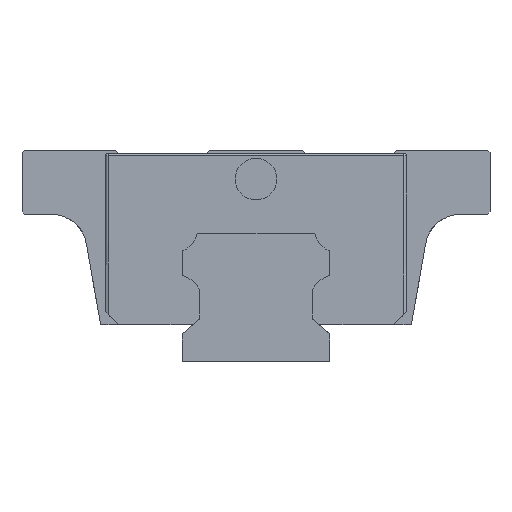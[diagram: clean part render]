
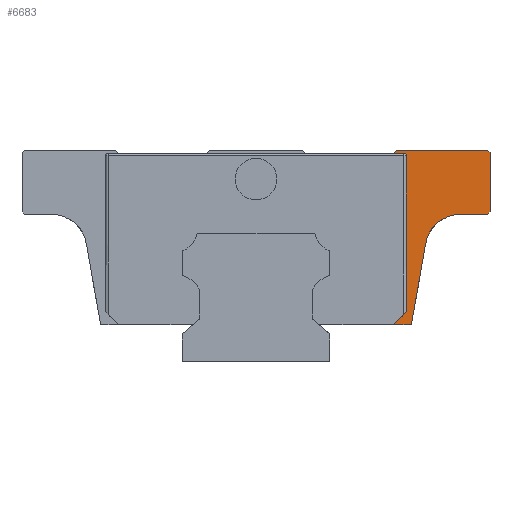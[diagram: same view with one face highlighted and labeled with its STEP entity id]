
A CAD part, left-side view. The second image highlights one B-rep face of the part: STEP entity #6683.
In plain terms, the highlighted planar face has unit normal (-1, 0, 0).
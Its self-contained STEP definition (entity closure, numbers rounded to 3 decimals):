
#136 = CARTESIAN_POINT ( 'NONE',  ( -29.5, -36.672, 32.463 ) ) ;
#156 = CARTESIAN_POINT ( 'NONE',  ( -29.5, -21.9, 33. ) ) ;
#224 = CARTESIAN_POINT ( 'NONE',  ( -29.5, -21.9, 33. ) ) ;
#227 = VECTOR ( 'NONE', #2421, 1000. ) ;
#237 = CARTESIAN_POINT ( 'NONE',  ( -29.5, -36.135, 23. ) ) ;
#273 = LINE ( 'NONE', #6273, #2633 ) ;
#302 = VECTOR ( 'NONE', #6993, 1000. ) ;
#496 = CARTESIAN_POINT ( 'NONE',  ( -29.5, -36.5, 32.635 ) ) ;
#572 = CARTESIAN_POINT ( 'NONE',  ( -29.5, -23.449, 32.135 ) ) ;
#712 = DIRECTION ( 'NONE',  ( 0., -0.707, 0.707 ) ) ;
#769 = LINE ( 'NONE', #224, #227 ) ;
#917 = CARTESIAN_POINT ( 'NONE',  ( -29.5, -24.589, 32.5 ) ) ;
#1100 = VERTEX_POINT ( 'NONE', #572 ) ;
#1224 = EDGE_CURVE ( 'NONE', #4862, #5840, #3623, .T. ) ;
#1313 = CARTESIAN_POINT ( 'NONE',  ( -29.5, -23.449, 7.806 ) ) ;
#1350 = EDGE_CURVE ( 'NONE', #1620, #6798, #7135, .T. ) ;
#1365 = DIRECTION ( 'NONE',  ( 1., 0., 0. ) ) ;
#1387 = VERTEX_POINT ( 'NONE', #1519 ) ;
#1438 = VECTOR ( 'NONE', #3074, 1000. ) ;
#1479 = AXIS2_PLACEMENT_3D ( 'NONE', #5373, #1365, #6906 ) ;
#1519 = CARTESIAN_POINT ( 'NONE',  ( -29.5, -23.084, 32.5 ) ) ;
#1620 = VERTEX_POINT ( 'NONE', #4980 ) ;
#1839 = ORIENTED_EDGE ( 'NONE', *, *, #1350, .T. ) ;
#1880 = VERTEX_POINT ( 'NONE', #2050 ) ;
#1953 = DIRECTION ( 'NONE',  ( 0., 0., 1. ) ) ;
#1966 = LINE ( 'NONE', #917, #1971 ) ;
#1971 = VECTOR ( 'NONE', #6920, 1000. ) ;
#2031 = DIRECTION ( 'NONE',  ( 0., 0., 1. ) ) ;
#2050 = CARTESIAN_POINT ( 'NONE',  ( -29.5, -36.135, 33. ) ) ;
#2063 = LINE ( 'NONE', #2505, #2883 ) ;
#2109 = ORIENTED_EDGE ( 'NONE', *, *, #5459, .F. ) ;
#2195 = DIRECTION ( 'NONE',  ( 0., -1., 0. ) ) ;
#2300 = CARTESIAN_POINT ( 'NONE',  ( -29.5, -27.269, 23. ) ) ;
#2326 = DIRECTION ( 'NONE',  ( 0., 0.707, 0.707 ) ) ;
#2350 = ORIENTED_EDGE ( 'NONE', *, *, #5564, .F. ) ;
#2421 = DIRECTION ( 'NONE',  ( 0., 0.643, -0.766 ) ) ;
#2424 = CIRCLE ( 'NONE', #3211, 5.5 ) ;
#2483 = VECTOR ( 'NONE', #7023, 1000. ) ;
#2505 = CARTESIAN_POINT ( 'NONE',  ( -29.5, -23.449, 7.8 ) ) ;
#2549 = PLANE ( 'NONE',  #6218 ) ;
#2576 = LINE ( 'NONE', #4786, #302 ) ;
#2633 = VECTOR ( 'NONE', #4037, 1000. ) ;
#2642 = CARTESIAN_POINT ( 'NONE',  ( -29.5, -21.443, 5.8 ) ) ;
#2795 = VERTEX_POINT ( 'NONE', #2642 ) ;
#2807 = EDGE_CURVE ( 'NONE', #1880, #5041, #2576, .T. ) ;
#2883 = VECTOR ( 'NONE', #2031, 1000. ) ;
#2921 = EDGE_CURVE ( 'NONE', #5522, #4862, #3970, .T. ) ;
#2934 = DIRECTION ( 'NONE',  ( 0., -0.707, 0.707 ) ) ;
#2947 = FACE_OUTER_BOUND ( 'NONE', #5167, .T. ) ;
#2977 = DIRECTION ( 'NONE',  ( -1., 0., 0. ) ) ;
#3005 = LINE ( 'NONE', #6335, #4167 ) ;
#3074 = DIRECTION ( 'NONE',  ( 0., 0., 1. ) ) ;
#3114 = ORIENTED_EDGE ( 'NONE', *, *, #1224, .T. ) ;
#3188 = ORIENTED_EDGE ( 'NONE', *, *, #5273, .T. ) ;
#3211 = AXIS2_PLACEMENT_3D ( 'NONE', #4698, #6911, #1953 ) ;
#3434 = LINE ( 'NONE', #136, #4970 ) ;
#3623 = LINE ( 'NONE', #5828, #1438 ) ;
#3647 = VECTOR ( 'NONE', #712, 1000. ) ;
#3693 = ORIENTED_EDGE ( 'NONE', *, *, #5886, .T. ) ;
#3909 = CARTESIAN_POINT ( 'NONE',  ( -29.5, -26.468, 18.455 ) ) ;
#3970 = LINE ( 'NONE', #6160, #3647 ) ;
#4037 = DIRECTION ( 'NONE',  ( 0., -1., 0. ) ) ;
#4073 = ORIENTED_EDGE ( 'NONE', *, *, #5676, .F. ) ;
#4167 = VECTOR ( 'NONE', #2934, 1000. ) ;
#4228 = ORIENTED_EDGE ( 'NONE', *, *, #4837, .T. ) ;
#4653 = EDGE_CURVE ( 'NONE', #5041, #6990, #769, .T. ) ;
#4698 = CARTESIAN_POINT ( 'NONE',  ( -29.5, -31.884, 17.5 ) ) ;
#4786 = CARTESIAN_POINT ( 'NONE',  ( -29.5, -36.5, 33. ) ) ;
#4837 = EDGE_CURVE ( 'NONE', #2795, #1620, #273, .T. ) ;
#4862 = VERTEX_POINT ( 'NONE', #6923 ) ;
#4970 = VECTOR ( 'NONE', #2326, 1000. ) ;
#4980 = CARTESIAN_POINT ( 'NONE',  ( -29.5, -24.236, 5.8 ) ) ;
#4983 = ORIENTED_EDGE ( 'NONE', *, *, #2921, .T. ) ;
#5041 = VERTEX_POINT ( 'NONE', #156 ) ;
#5167 = EDGE_LOOP ( 'NONE', ( #2109, #4228, #1839, #3188, #3693, #4983, #3114, #5957, #5289, #5543, #2350, #5325, #4073 ) ) ;
#5192 = DIRECTION ( 'NONE',  ( 0., 0., 1. ) ) ;
#5220 = CARTESIAN_POINT ( 'NONE',  ( -29.5, -10.009, 5.8 ) ) ;
#5273 = EDGE_CURVE ( 'NONE', #6798, #6164, #2424, .T. ) ;
#5289 = ORIENTED_EDGE ( 'NONE', *, *, #2807, .T. ) ;
#5325 = ORIENTED_EDGE ( 'NONE', *, *, #6458, .T. ) ;
#5373 = CARTESIAN_POINT ( 'NONE',  ( -29.5, -23.084, 32.135 ) ) ;
#5396 = CIRCLE ( 'NONE', #1479, 0.365 ) ;
#5459 = EDGE_CURVE ( 'NONE', #2795, #5507, #3005, .T. ) ;
#5507 = VERTEX_POINT ( 'NONE', #1313 ) ;
#5522 = VERTEX_POINT ( 'NONE', #237 ) ;
#5543 = ORIENTED_EDGE ( 'NONE', *, *, #4653, .T. ) ;
#5564 = EDGE_CURVE ( 'NONE', #1387, #6990, #1966, .T. ) ;
#5676 = EDGE_CURVE ( 'NONE', #5507, #1100, #2063, .T. ) ;
#5828 = CARTESIAN_POINT ( 'NONE',  ( -29.5, -36.5, 23. ) ) ;
#5840 = VERTEX_POINT ( 'NONE', #496 ) ;
#5886 = EDGE_CURVE ( 'NONE', #6164, #5522, #6095, .T. ) ;
#5929 = CARTESIAN_POINT ( 'NONE',  ( -29.5, -24.236, 5.8 ) ) ;
#5957 = ORIENTED_EDGE ( 'NONE', *, *, #6243, .T. ) ;
#6077 = CARTESIAN_POINT ( 'NONE',  ( -29.5, -31.884, 23. ) ) ;
#6095 = LINE ( 'NONE', #2300, #7049 ) ;
#6160 = CARTESIAN_POINT ( 'NONE',  ( -29.5, -14.472, 1.337 ) ) ;
#6164 = VERTEX_POINT ( 'NONE', #6077 ) ;
#6218 = AXIS2_PLACEMENT_3D ( 'NONE', #5220, #2977, #5192 ) ;
#6243 = EDGE_CURVE ( 'NONE', #5840, #1880, #3434, .T. ) ;
#6273 = CARTESIAN_POINT ( 'NONE',  ( -29.5, -11.736, 5.8 ) ) ;
#6335 = CARTESIAN_POINT ( 'NONE',  ( -29.5, -21.443, 5.8 ) ) ;
#6391 = CARTESIAN_POINT ( 'NONE',  ( -29.5, -21.48, 32.5 ) ) ;
#6458 = EDGE_CURVE ( 'NONE', #1387, #1100, #5396, .T. ) ;
#6683 = ADVANCED_FACE ( 'NONE', ( #2947 ), #2549, .T. ) ;
#6798 = VERTEX_POINT ( 'NONE', #3909 ) ;
#6906 = DIRECTION ( 'NONE',  ( 0., 0., 1. ) ) ;
#6911 = DIRECTION ( 'NONE',  ( 1., 0., 0. ) ) ;
#6920 = DIRECTION ( 'NONE',  ( 0., 1., 0. ) ) ;
#6923 = CARTESIAN_POINT ( 'NONE',  ( -29.5, -36.5, 23.365 ) ) ;
#6990 = VERTEX_POINT ( 'NONE', #6391 ) ;
#6993 = DIRECTION ( 'NONE',  ( 0., 1., 0. ) ) ;
#7023 = DIRECTION ( 'NONE',  ( 0., -0.174, 0.985 ) ) ;
#7049 = VECTOR ( 'NONE', #2195, 1000. ) ;
#7135 = LINE ( 'NONE', #5929, #2483 ) ;
